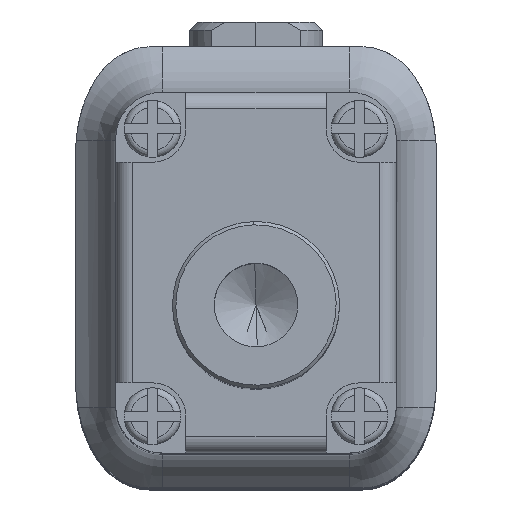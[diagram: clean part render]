
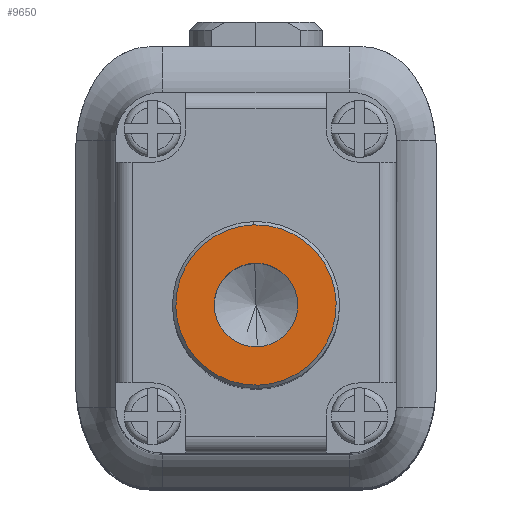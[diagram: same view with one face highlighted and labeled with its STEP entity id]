
A CAD part, top view. The second image highlights one B-rep face of the part: STEP entity #9650.
In plain terms, the highlighted planar face has unit normal (0, 0, 1) as drawn and (0, 0, -1) by its records, which use the part's own axes.
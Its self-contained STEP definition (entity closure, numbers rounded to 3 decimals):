
#4 = EDGE_CURVE ( 'NONE', #30816, #9543, #52258, .T. ) ;
#398 = EDGE_LOOP ( 'NONE', ( #46609, #36944 ) ) ;
#2055 = CARTESIAN_POINT ( 'NONE',  ( 0., 0., 0. ) ) ;
#2259 = DIRECTION ( 'NONE',  ( -1., 0., 0. ) ) ;
#2434 = AXIS2_PLACEMENT_3D ( 'NONE', #2055, #33642, #25232 ) ;
#4856 = CARTESIAN_POINT ( 'NONE',  ( 0., 0., 0. ) ) ;
#8272 = CARTESIAN_POINT ( 'NONE',  ( 0., 0., 0. ) ) ;
#8524 = CARTESIAN_POINT ( 'NONE',  ( 2.4, 0., 0. ) ) ;
#9543 = VERTEX_POINT ( 'NONE', #45642 ) ;
#9650 = ADVANCED_FACE ( 'NONE', ( #47351, #24820 ), #46783, .F. ) ;
#10991 = AXIS2_PLACEMENT_3D ( 'NONE', #15845, #56015, #33516 ) ;
#13566 = EDGE_CURVE ( 'NONE', #45945, #40167, #55571, .T. ) ;
#15394 = CIRCLE ( 'NONE', #2434, 2.4 ) ;
#15845 = CARTESIAN_POINT ( 'NONE',  ( 0., 0., 0. ) ) ;
#16514 = ORIENTED_EDGE ( 'NONE', *, *, #23856, .T. ) ;
#18610 = AXIS2_PLACEMENT_3D ( 'NONE', #8272, #21317, #25954 ) ;
#18750 = EDGE_LOOP ( 'NONE', ( #56770, #16514 ) ) ;
#19668 = DIRECTION ( 'NONE',  ( 0., 0., -1. ) ) ;
#21317 = DIRECTION ( 'NONE',  ( 0., 0., -1. ) ) ;
#23856 = EDGE_CURVE ( 'NONE', #40167, #45945, #15394, .T. ) ;
#24820 = FACE_BOUND ( 'NONE', #398, .T. ) ;
#25232 = DIRECTION ( 'NONE',  ( 1., 0., 0. ) ) ;
#25954 = DIRECTION ( 'NONE',  ( 1., 0., 0. ) ) ;
#26375 = AXIS2_PLACEMENT_3D ( 'NONE', #40809, #19668, #2259 ) ;
#30816 = VERTEX_POINT ( 'NONE', #46456 ) ;
#33516 = DIRECTION ( 'NONE',  ( 1., 0., 0. ) ) ;
#33642 = DIRECTION ( 'NONE',  ( 0., 0., -1. ) ) ;
#35002 = DIRECTION ( 'NONE',  ( 0., 0., -1. ) ) ;
#36944 = ORIENTED_EDGE ( 'NONE', *, *, #4, .F. ) ;
#37750 = EDGE_CURVE ( 'NONE', #9543, #30816, #51437, .T. ) ;
#39466 = AXIS2_PLACEMENT_3D ( 'NONE', #4856, #35002, #40180 ) ;
#40167 = VERTEX_POINT ( 'NONE', #52848 ) ;
#40180 = DIRECTION ( 'NONE',  ( -1., 0., 0. ) ) ;
#40809 = CARTESIAN_POINT ( 'NONE',  ( 0., 0., 0. ) ) ;
#45642 = CARTESIAN_POINT ( 'NONE',  ( -1.25, 0., 0. ) ) ;
#45945 = VERTEX_POINT ( 'NONE', #8524 ) ;
#46456 = CARTESIAN_POINT ( 'NONE',  ( 1.25, 0., 0. ) ) ;
#46609 = ORIENTED_EDGE ( 'NONE', *, *, #37750, .F. ) ;
#46783 = PLANE ( 'NONE',  #10991 ) ;
#47351 = FACE_OUTER_BOUND ( 'NONE', #18750, .T. ) ;
#51437 = CIRCLE ( 'NONE', #39466, 1.25 ) ;
#52258 = CIRCLE ( 'NONE', #26375, 1.25 ) ;
#52848 = CARTESIAN_POINT ( 'NONE',  ( -2.4, 0., 0. ) ) ;
#55571 = CIRCLE ( 'NONE', #18610, 2.4 ) ;
#56015 = DIRECTION ( 'NONE',  ( 0., 0., 1. ) ) ;
#56770 = ORIENTED_EDGE ( 'NONE', *, *, #13566, .T. ) ;
